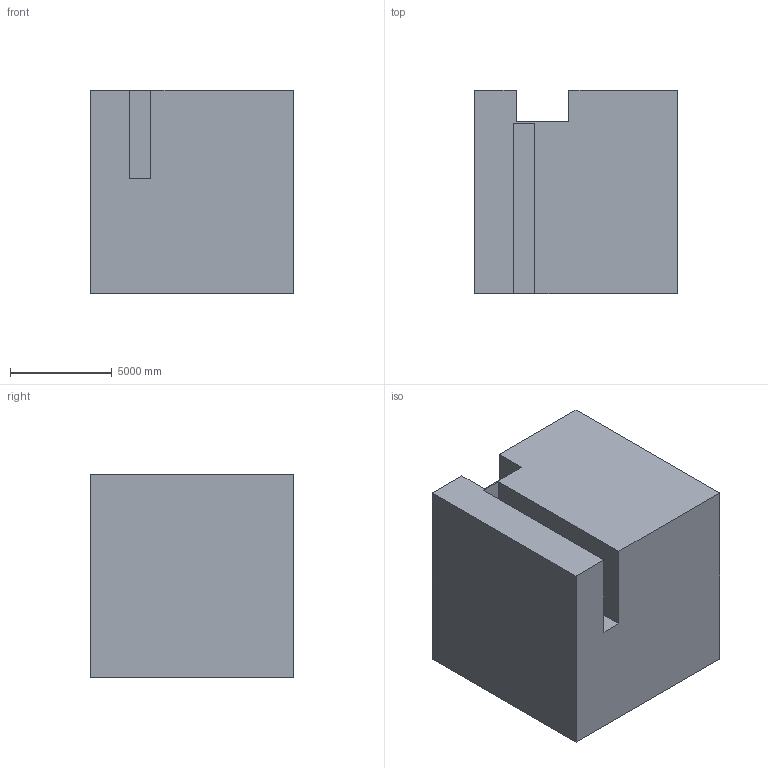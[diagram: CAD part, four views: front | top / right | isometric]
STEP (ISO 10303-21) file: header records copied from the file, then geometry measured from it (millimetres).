
FILE_DESCRIPTION (( 'STEP AP203' ), '1' );
FILE_NAME ('192.STEP', '2022-07-28T13:51:43', ( 'user' ), ( '' ), 'SwSTEP 2.0', 'SolidWorks 2021', '' );
FILE_SCHEMA (( 'CONFIG_CONTROL_DESIGN' ));
Length unit declared in the file: centimetre
Products named in the file (1): 192
Bounding box: 10000 x 10000 x 10000 mm (x, y, z)
Volume: 921963185239.5 mm3; surface area: 696099901.7 mm2
Topology: 1 solids, 1 shells, 14 faces, 36 edges, 24 vertices
Faces by surface type: plane 14
Entity records: 497 total; most frequent: CARTESIAN_POINT 75, ORIENTED_EDGE 72, DIRECTION 66, EDGE_CURVE 36, LINE 36, VECTOR 36, VERTEX_POINT 24, AXIS2_PLACEMENT_3D 15
